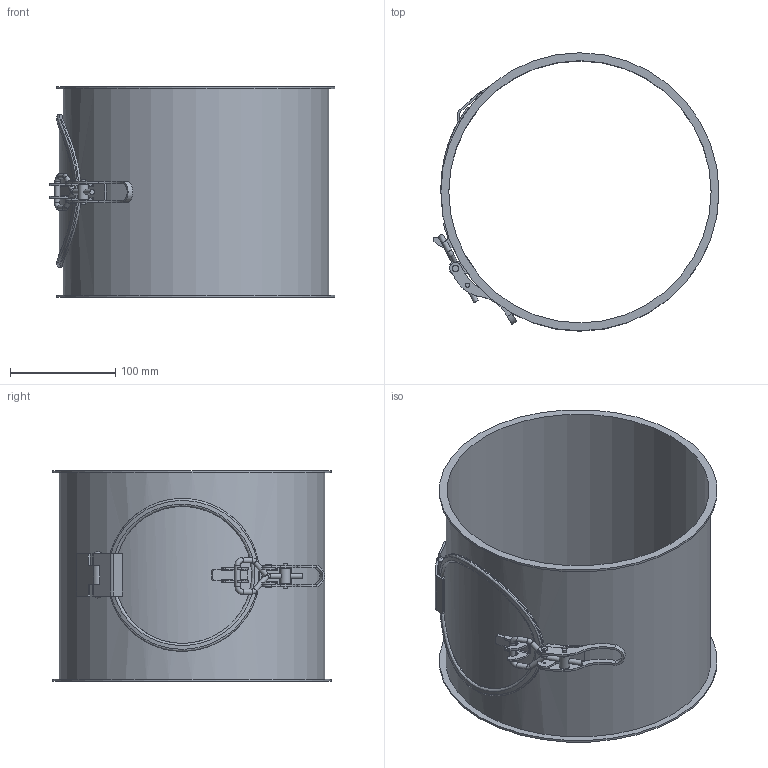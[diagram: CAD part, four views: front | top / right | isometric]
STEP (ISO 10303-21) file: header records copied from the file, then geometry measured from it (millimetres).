
FILE_DESCRIPTION((''),'2;1');
FILE_NAME('U:\Wolfgang\Marcel-3D\fertig\Kapitel 4\2511043.stp','2011-04-21T08:47:53',('TK1'),(''),'Autodesk Inventor 2010','Autodesk Inventor 2010','');
FILE_SCHEMA(('AUTOMOTIVE_DESIGN { 1 0 10303 214 1 1 1 1 }'));
Length unit declared in the file: millimetre
Products named in the file (15): 2511043 (Detailgenauigkeit1); 2511043-1; GelenkDeckel25b; GelenkDeckel1c; Deckel25; Deckel25b; GelenkDeckel25a 45; VerschlussDeckel25; dichtung25; Verschluss25; Verschluss25a; Verschluss1b; Verschluss1c; Verschluss1d; Verschluss1e
Assembly tree (15 placements, depth 3):
  2511043 (Detailgenauigkeit1)
    2511043-1
    GelenkDeckel25b
    GelenkDeckel1c
    Deckel25
      Deckel25b
      GelenkDeckel25a 45
      VerschlussDeckel25
      dichtung25
    Verschluss25
      Verschluss25a
      Verschluss1b
      Verschluss1c
      Verschluss1d  x2
      Verschluss1e
Bounding box: 271.47 x 264 x 200 mm (x, y, z)
Volume: 285910.7 mm3; surface area: 374544.9 mm2
Topology: 13 solids, 13 shells, 177 faces, 416 edges, 269 vertices
Faces by surface type: cylinder 81, plane 80, torus 9, bspline 5, sphere 2
Full cylindrical faces by diameter (mm): 2 x4, 4 x4, 5 x6, 6 x6, 6.2 x2, 10 x1, 115 x1, 130 x1, 135 x1, 145 x1, 249 x1, 252 x1, 264 x2
Entity records: 6860 total; most frequent: CARTESIAN_POINT 2603, DIRECTION 862, ORIENTED_EDGE 710, EDGE_CURVE 355, AXIS2_PLACEMENT_3D 341, VERTEX_POINT 252, EDGE_LOOP 241, VECTOR 180
